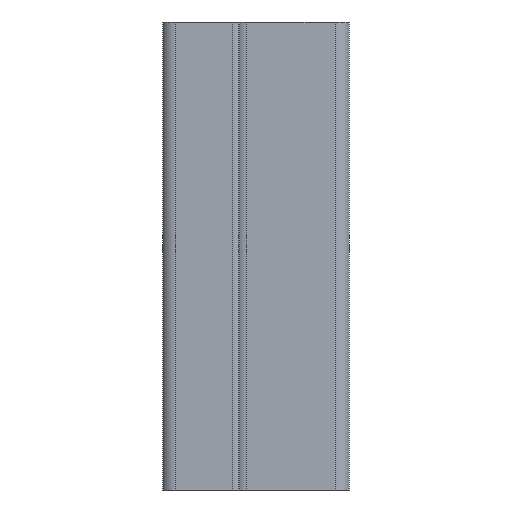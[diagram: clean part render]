
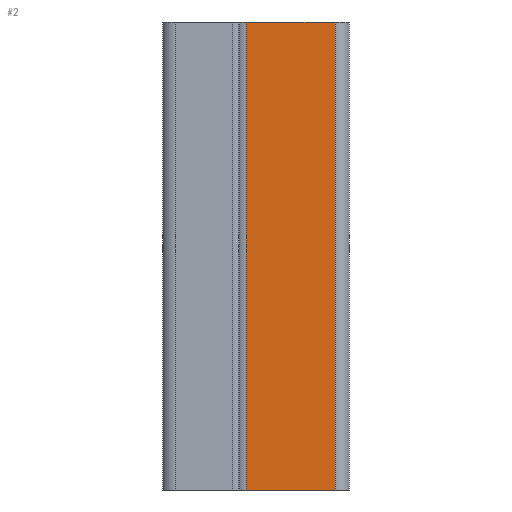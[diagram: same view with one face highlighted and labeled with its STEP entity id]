
A CAD part, left-side view. The second image highlights one B-rep face of the part: STEP entity #2.
In plain terms, the highlighted planar face has unit normal (-1, 0, 0).
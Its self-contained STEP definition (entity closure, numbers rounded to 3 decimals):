
#2 = ADVANCED_FACE ( 'NONE', ( #1767 ), #1106, .F. ) ;
#316 = DIRECTION ( 'NONE',  ( 0., -1., 0. ) ) ;
#329 = VERTEX_POINT ( 'NONE', #521 ) ;
#429 = DIRECTION ( 'NONE',  ( 0., 0., -1. ) ) ;
#521 = CARTESIAN_POINT ( 'NONE',  ( -12.5, -9.5, 0. ) ) ;
#702 = EDGE_LOOP ( 'NONE', ( #2126, #1009, #1401, #2103 ) ) ;
#793 = VERTEX_POINT ( 'NONE', #1027 ) ;
#810 = VECTOR ( 'NONE', #1548, 1000. ) ;
#948 = DIRECTION ( 'NONE',  ( 1., 0., 0. ) ) ;
#1009 = ORIENTED_EDGE ( 'NONE', *, *, #1542, .F. ) ;
#1020 = VECTOR ( 'NONE', #429, 1000. ) ;
#1027 = CARTESIAN_POINT ( 'NONE',  ( -12.5, 9.5, 0. ) ) ;
#1061 = EDGE_CURVE ( 'NONE', #1309, #793, #1500, .T. ) ;
#1069 = EDGE_CURVE ( 'NONE', #793, #329, #1159, .T. ) ;
#1106 = PLANE ( 'NONE',  #1470 ) ;
#1114 = VECTOR ( 'NONE', #316, 1000. ) ;
#1159 = LINE ( 'NONE', #1276, #1207 ) ;
#1184 = CARTESIAN_POINT ( 'NONE',  ( -12.5, -9.5, 100. ) ) ;
#1207 = VECTOR ( 'NONE', #1578, 1000. ) ;
#1276 = CARTESIAN_POINT ( 'NONE',  ( -12.5, -9.5, 0. ) ) ;
#1299 = CARTESIAN_POINT ( 'NONE',  ( -12.5, -9.5, 100. ) ) ;
#1309 = VERTEX_POINT ( 'NONE', #1828 ) ;
#1401 = ORIENTED_EDGE ( 'NONE', *, *, #2159, .F. ) ;
#1430 = CARTESIAN_POINT ( 'NONE',  ( -12.5, 9.5, 100. ) ) ;
#1470 = AXIS2_PLACEMENT_3D ( 'NONE', #1299, #948, #1782 ) ;
#1500 = LINE ( 'NONE', #1430, #1020 ) ;
#1524 = CARTESIAN_POINT ( 'NONE',  ( -12.5, -9.5, 100. ) ) ;
#1542 = EDGE_CURVE ( 'NONE', #2002, #329, #1989, .T. ) ;
#1548 = DIRECTION ( 'NONE',  ( 0., 0., -1. ) ) ;
#1558 = LINE ( 'NONE', #1184, #1114 ) ;
#1578 = DIRECTION ( 'NONE',  ( 0., -1., 0. ) ) ;
#1642 = CARTESIAN_POINT ( 'NONE',  ( -12.5, -9.5, 100. ) ) ;
#1767 = FACE_OUTER_BOUND ( 'NONE', #702, .T. ) ;
#1782 = DIRECTION ( 'NONE',  ( 0., 1., 0. ) ) ;
#1828 = CARTESIAN_POINT ( 'NONE',  ( -12.5, 9.5, 100. ) ) ;
#1989 = LINE ( 'NONE', #1524, #810 ) ;
#2002 = VERTEX_POINT ( 'NONE', #1642 ) ;
#2103 = ORIENTED_EDGE ( 'NONE', *, *, #1061, .T. ) ;
#2126 = ORIENTED_EDGE ( 'NONE', *, *, #1069, .T. ) ;
#2159 = EDGE_CURVE ( 'NONE', #1309, #2002, #1558, .T. ) ;
